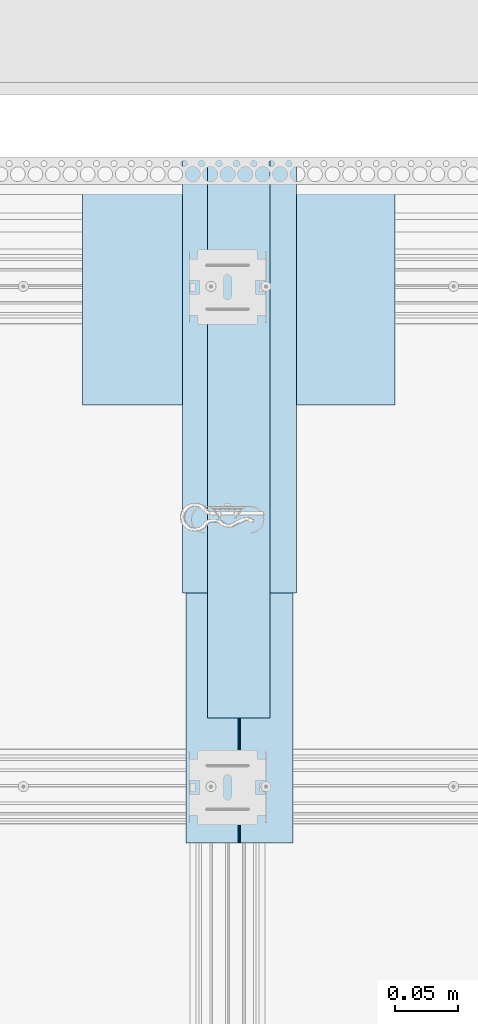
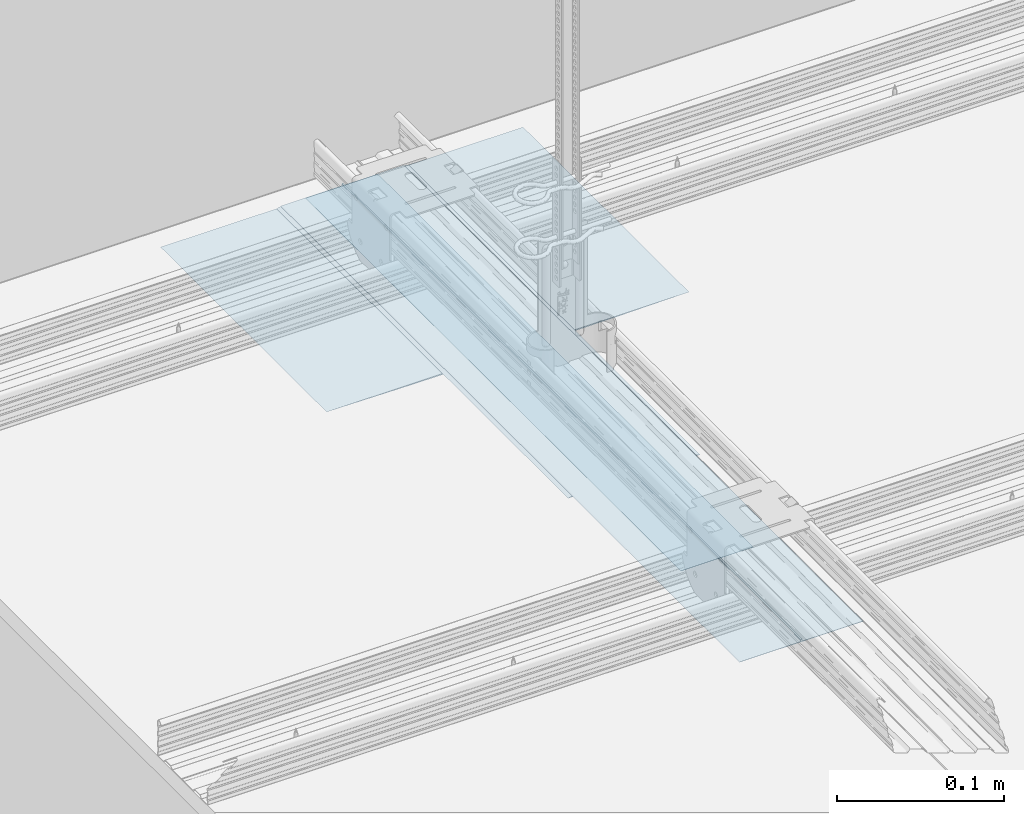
# One storey, part 3 of 34: 4 slabs.
"""IFC2X3 building model written with IfcOpenShell, lengths in millimetres."""

from ifc_helpers import new_model, entity, si_unit, converted_unit, direction, frame, origin, origin_with_axes, place, context, project, spatial, faceted_brep, element, save


model = new_model("IFC2X3")

# Units and contexts
model_context = context("Model", 3, precision=1e-05, world=origin(), true_north=direction((0.0, 1.0, 0.0)))
ifc_project = project(units=[si_unit("LENGTHUNIT", "METRE", prefix="MILLI"), si_unit("AREAUNIT", "SQUARE_METRE"), si_unit("VOLUMEUNIT", "CUBIC_METRE"), converted_unit("PLANEANGLEUNIT", "DEGREE", entity("IfcPlaneAngleMeasure", 0.01745), si_unit("PLANEANGLEUNIT", "RADIAN"), dimensions=[0, 0, 0, 0, 0, 0, 0]), si_unit("SOLIDANGLEUNIT", "STERADIAN"), si_unit("MASSUNIT", "GRAM"), si_unit("TIMEUNIT", "SECOND"), si_unit("THERMODYNAMICTEMPERATUREUNIT", "DEGREE_CELSIUS"), si_unit("LUMINOUSINTENSITYUNIT", "LUMEN")], contexts=[model_context])

# Site, building, storey
site_placement = place(None, origin_with_axes())
site = spatial("IfcSite", under=ifc_project, at=site_placement, Name="Default Site", CompositionType="ELEMENT")
building_placement = place(site_placement, origin_with_axes())
building = spatial("IfcBuilding", under=site, at=building_placement, Name="Default Building", CompositionType="ELEMENT")
storey_placement = place(building_placement, origin_with_axes())
storey = spatial("IfcBuildingStorey", under=building, at=storey_placement, Name="Default Building Storey", CompositionType="ELEMENT", Elevation=0.0)

# Slabs
slab_1_placement = place(storey_placement, frame((3262.898563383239, 1984.976527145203, 4371.841939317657), z_axis=(0.0, -1.0, 3.330669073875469e-16), x_axis=(1.0, 0.0, 0.0)))
element("IfcSlab", 1, at=slab_1_placement, inside=storey, Name="Dedykowana masa szpachlowa Rigips - wykończeniowa", context=model_context, shape_type="Brep", body=[
    faceted_brep([(-612.459216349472, -3390.556721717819, 2.449996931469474), (-862.459216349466, -3390.556721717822, 2.449996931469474), (-812.4612643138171, -3391.196716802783, 2.449996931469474), (-762.4602403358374, -3391.516720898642, 2.449996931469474), (-712.458192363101, -3391.51672089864, 2.449996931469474), (-662.4571683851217, -3391.19671680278, 2.449996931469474), (-762.4602403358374, -3391.516720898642, 200.8000000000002), (-812.4612643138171, -3391.196716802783, 200.8000000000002), (-862.459216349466, -3390.556721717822, 200.8000000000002), (-612.459216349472, -3390.556721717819, 200.8000000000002), (-662.4571683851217, -3391.19671680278, 200.8000000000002), (-712.458192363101, -3391.516720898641, 200.8000000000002)], [[[0, 1, 2, 3, 4, 5]], [[6, 7, 8, 9, 10, 11]], [[9, 0, 5, 10]], [[10, 5, 4, 11]], [[11, 4, 3, 6]], [[6, 3, 2, 7]], [[1, 8, 7, 2]], [[0, 9, 8, 1]]]),
])
slab_2_placement = place(storey_placement, frame((3262.898563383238, 1984.976527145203, 4371.641939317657), z_axis=(2.257951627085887e-47, -1.0, 3.330669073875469e-16), x_axis=(1.0, 2.257951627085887e-47, -7.520489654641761e-63)))
element("IfcSlab", 2, at=slab_2_placement, inside=storey, Name="Taśma spoinowa RIGIPS", context=model_context, shape_type="Brep", body=[
    faceted_brep([(-712.4592163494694, -3389.656721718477, 450.8), (-712.4592163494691, -3389.856721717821, 450.8), (-762.4592163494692, -3389.856721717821, 450.8), (-762.4592163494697, -3389.656721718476, 450.8), (-712.4592163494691, -3389.856721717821, 2.449996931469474), (-712.4592163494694, -3389.656721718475, 2.449996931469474), (-762.4592163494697, -3389.656721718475, 2.449996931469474), (-762.4592163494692, -3389.856721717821, 2.449996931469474)], [[[0, 1, 2, 3]], [[4, 5, 6, 7]], [[5, 0, 3, 6]], [[6, 3, 2, 7]], [[7, 2, 1, 4]], [[4, 1, 0, 5]]]),
])
slab_3_placement = place(storey_placement, frame((2480.439347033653, 1434.176527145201, 981.985217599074), z_axis=(0.0, 0.0, 1.0), x_axis=(1.0, 0.0, 0.0)))
element("IfcSlab", 3, at=slab_3_placement, inside=storey, Name="Dedykowana masa szpachlowa Rigips - konstrukcyjna", context=model_context, shape_type="Brep", body=[
    faceted_brep([(46.29289321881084, -1.804778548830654e-13, 0.5928932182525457), (46.29289321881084, 548.3500030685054, 0.5928932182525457), (46.13397459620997, 548.3500030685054, 0.7999999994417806), (46.13397459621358, -1.804778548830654e-13, 0.7999999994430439), (87.00000000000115, 0.0, 0.2999999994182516), (87.00000000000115, 548.3500030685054, 0.2999999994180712), (47.00000000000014, 548.3500030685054, 0.2999999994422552), (47.00000000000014, 0.0, 0.2999999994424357), (46.74118095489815, 0.0, 0.3340741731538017), (46.74118095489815, 548.3500030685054, 0.3340741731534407), (46.49999999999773, 548.3500030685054, 0.4339745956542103), (46.49999999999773, -1.804778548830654e-13, 0.4339745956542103), (2.799999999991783, 0.0, 1.804778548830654e-13), (88.1999999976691, 0.0, 0.0), (46.03407417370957, 0.0, 1.041180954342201), (45.99999999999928, 0.0, 1.299999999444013), (46.00000000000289, 0.0, 1.999999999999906), (44.99999999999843, 0.0, 1.999999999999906), (45.00000000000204, 0.0, 1.299999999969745), (44.96592582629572, 0.0, 1.041180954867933), (44.86602540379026, 0.0, 0.7999999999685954), (44.70710678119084, 1.804778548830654e-13, 0.5928932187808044), (44.50000000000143, 0.0, 0.4339745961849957), (44.2588190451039, 0.0, 0.3340741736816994), (44.00000000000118, 0.0, 0.2999999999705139), (3.999999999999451, 0.0, 0.3000000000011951), (46.03407417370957, 548.3500030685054, 1.041180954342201), (45.99999999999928, 548.3500030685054, 1.299999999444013), (88.1999999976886, 548.3500030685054, -1.804778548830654e-13), (46.00000000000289, 548.3500030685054, 1.999999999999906), (44.99999999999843, 548.3500030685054, 1.999999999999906), (2.799999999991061, 548.3500030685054, 0.0), (3.999999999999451, 548.3500030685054, 0.3000000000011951), (44.00000000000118, 548.3500030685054, 0.2999999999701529), (44.2588190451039, 548.3500030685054, 0.3340741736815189), (44.5000000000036, 548.3500030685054, 0.433974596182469), (44.70710678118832, 548.3500030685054, 0.5928932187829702), (44.86602540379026, 548.3500030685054, 0.7999999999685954), (44.96592582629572, 548.3500030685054, 1.041180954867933), (45.00000000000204, 548.3500030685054, 1.299999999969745)], [[[0, 1, 2, 3]], [[4, 5, 6, 7]], [[8, 9, 10, 11]], [[12, 13, 4, 7, 8, 11, 0, 3, 14, 15, 16, 17, 18, 19, 20, 21, 22, 23, 24, 25]], [[14, 26, 27, 15]], [[3, 2, 26, 14]], [[7, 6, 9, 8]], [[11, 10, 1, 0]], [[4, 13, 28, 5]], [[15, 27, 29, 16]], [[30, 29, 27, 26, 2, 1, 10, 9, 6, 5, 28, 31, 32, 33, 34, 35, 36, 37, 38, 39]], [[18, 17, 30, 39]], [[19, 38, 37, 20]], [[18, 39, 38, 19]], [[24, 33, 32, 25]], [[23, 34, 33, 24]], [[20, 37, 36, 21]], [[17, 16, 29, 30]], [[21, 36, 35, 22]], [[22, 35, 34, 23]], [[25, 32, 31, 12]], [[31, 28, 13, 12]]]),
])
slab_4_placement = place(storey_placement, frame((2480.439347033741, 1634.176527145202, 981.2852175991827), z_axis=(0.0, 0.0, 1.0), x_axis=(1.0, 0.0, 0.0)))
element("IfcSlab", 4, at=slab_4_placement, inside=storey, Name="Dedykowana masa szpachlowa Rigips - konstrukcyjna", context=model_context, shape_type="Brep", body=[
    faceted_brep([(90.99999999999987, 0.0, 0.0), (90.99999999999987, 348.350003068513, 0.0), (88.19999999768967, 348.350003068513, 0.6999999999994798), (88.19999999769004, 0.0, 0.6999999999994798), (20.00000000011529, 3.609557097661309e-13, 0.2999999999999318), (20.00000000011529, 348.350003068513, 0.2999999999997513), (20.00000000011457, 348.350003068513, 0.6999999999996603), (20.00000000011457, 5.414335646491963e-13, 0.6999999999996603), (70.00000000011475, 1.804778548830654e-13, 0.3000000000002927), (70.00000000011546, 348.350003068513, 0.2999999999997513), (70.00000000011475, 1.263344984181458e-12, 0.6999999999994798), (70.00000000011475, 348.350003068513, 0.6999999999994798), (0.0, 0.0, 0.0), (0.0, 348.350003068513, 0.0), (2.799999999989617, 348.350003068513, 0.6999999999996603), (2.800000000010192, 5.414335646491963e-13, 0.6999999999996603)], [[[0, 1, 2, 3]], [[4, 5, 6, 7]], [[8, 9, 5, 4]], [[8, 10, 11, 9]], [[2, 11, 10, 3]], [[0, 12, 13, 1]], [[14, 6, 5, 9, 11, 2, 1, 13]], [[12, 15, 14, 13]], [[15, 7, 6, 14]], [[3, 10, 8, 4, 7, 15, 12, 0]]]),
])

save(model, "model.ifc")
